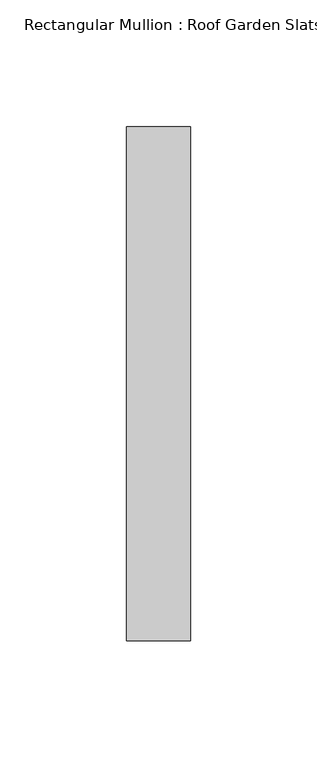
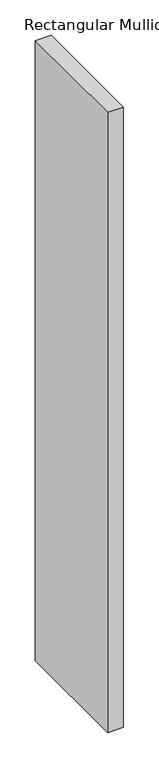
"""IFC4 building model written with IfcOpenShell, lengths in millimetres: member geometry, Rectangular Mullion : Roof Garden Slats."""

from ifc_helpers import new_model, si_unit, frame, origin, place, context, project, spatial, polyline, outline, extrude, source, transform, mapped, element, save


def rectangular_mullion_roof_garden_slats_4b6daef5(model_context):
    return source(origin(), model_context, "Body", "SweptSolid", [
        extrude(outline(polyline([(0.0, 139.7), (0.0, -63.5), (-25.4, -63.5), (-25.4, 139.7), (0.0, 139.7)])), frame((0.0, 0.0, -1066.8), z_axis=(0.0, 0.0, 1.0), x_axis=(1.0, 0.0, 0.0)), (0.0, 0.0, 1.0), 1066.8),
    ])


if __name__ == "__main__":
    model = new_model("IFC4")
    model_context = context("Model", 3, world=origin())
    ifc_project = project(units=[si_unit("LENGTHUNIT", "METRE", prefix="MILLI")], contexts=[model_context])
    site = spatial("IfcSite", under=ifc_project)
    building = spatial("IfcBuilding", under=site)
    placement = place(None, origin())
    rectangular_mullion_roof_garden_slats_shape = rectangular_mullion_roof_garden_slats_4b6daef5(model_context)
    element("IfcMember", 1, ObjectType="Rectangular Mullion : Roof Garden Slats", at=placement, inside=building, context=model_context, shape_type="MappedRepresentation", body=[
        mapped(rectangular_mullion_roof_garden_slats_shape, transform((0.0, 0.0, 0.0), x_axis=(1.0, 0.0, 0.0), y_axis=(0.0, 1.0, 0.0), z_axis=(0.0, 0.0, 1.0))),
    ])
    save(model, "model.ifc")
